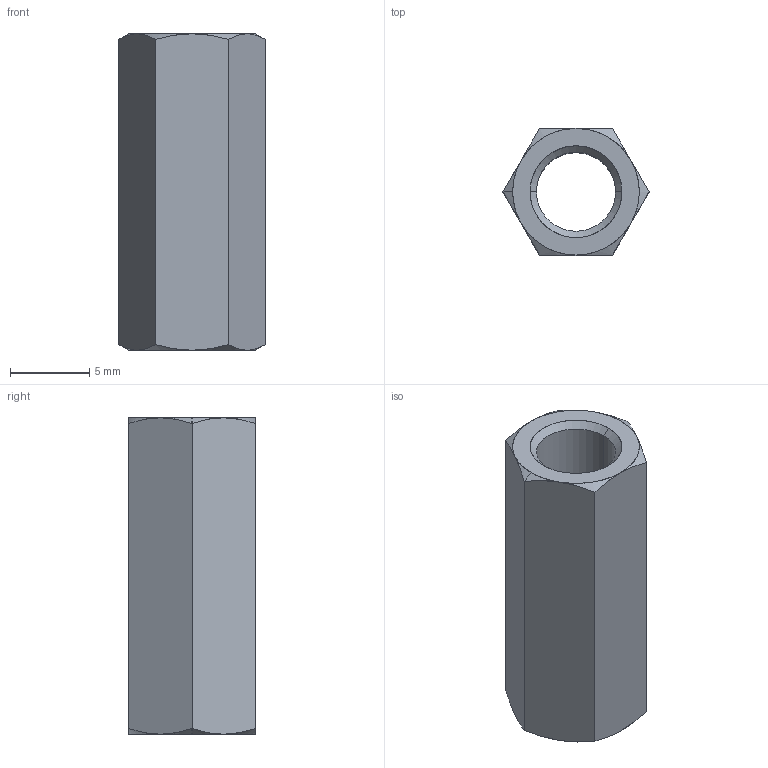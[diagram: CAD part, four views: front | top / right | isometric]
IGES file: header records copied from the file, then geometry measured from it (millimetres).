
Start section: SolidWorks IGES file using analytic representation for surfaces
Global section: file name: C:\Users\ianosborn\Desktop\N0503.NP_v2\N0503.NP_v2_20250227_IGES\N0503.050-020-NP.igs; native system: SolidWorks 2019; preprocessor: SolidWorks 2019; author: IanOsborn; date: 250227.144434; units: millimetre
Bounding box: 9.24 x 8 x 20 mm (x, y, z)
Surface area: 927.9 mm2 (no closed solid volume)
Topology: 0 solids, 0 shells, 28 faces, 286 edges, 286 vertices
Faces by surface type: revolution 20, bspline 8
